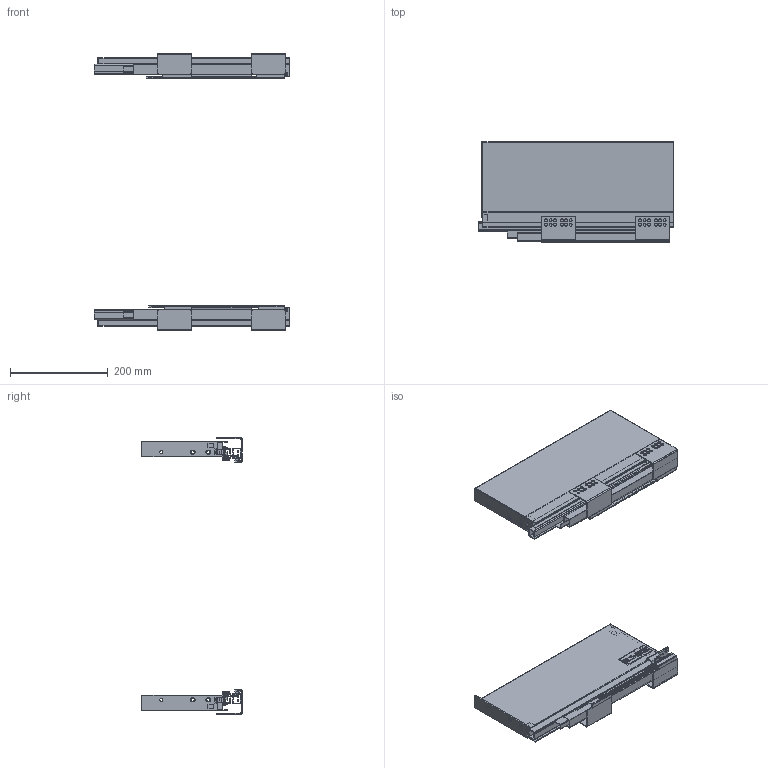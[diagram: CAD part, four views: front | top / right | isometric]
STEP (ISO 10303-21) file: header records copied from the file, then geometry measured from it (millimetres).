
FILE_DESCRIPTION(/* description */ (''),/* implementation_level */ '2;1');
FILE_NAME(/* name */ 'C:\Users\dmitruk\Documents\WORK\\X2\041D0410041F042004100412041B042F042E042904180415\X0\\SLIMBOX\SLIMBOX\SLIMBOX H175 L-400.stp',/* time_stamp */ '2022-04-19T17:18:50+03:00',/* author */ ('dmitruk'),/* organization */ ('AKS'),/* preprocessor_version */ 'ST-DEVELOPER v16.5',/* originating_system */ 'Autodesk Inventor 2017',/* authorisation */ '');
FILE_SCHEMA (('AUTOMOTIVE_DESIGN { 1 0 10303 214 3 1 1 }'));
Length unit declared in the file: millimetre
Products named in the file (13): SLIMBOX 90 мм правый; Боковина SLIMBOX _2; Направляющие \X2\0441043A
0440044B0442043E0433043E\X0\ монтажа \X2\043F
043E043B043D043E0433043E\X0\ \X2\0432044B04340432043804360435043D0438044F
\X0\ SLIMBOX-01; CR SLIMBOX-400; DR SLIMBOX; Крепление \X2\04440430
0441043004340430\X0\ SLIMBOX прав; CR SLIMBOX-500; DL SLIMBOX; Крепление \X2\04440430
0441043004340430\X0\ SLIMBOX лев; slim DW; Крепление к 
фасаду; Заглушка SLIMBOX; Крепление к 
фасаду 175
Assembly tree (16 placements, depth 3):
  SLIMBOX 90 мм правый
    Боковина SLIMBOX _2
    Направляющие \X2\0441043A
0440044B0442043E0433043E\X0\ монтажа \X2\043F
043E043B043D043E0433043E\X0\ \X2\0432044B04340432043804360435043D0438044F
\X0\ SLIMBOX-01
      CR SLIMBOX-400
      DR SLIMBOX
      slim DW  x2
      Крепление \X2\04440430
0441043004340430\X0\ SLIMBOX прав
      CR SLIMBOX-500
      DL SLIMBOX
      Крепление \X2\04440430
0441043004340430\X0\ SLIMBOX лев
    Крепление к 
фасаду  x2
    Заглушка SLIMBOX  x2
    Крепление к 
фасаду 175  x2
Bounding box: 400 x 204.5 x 564 mm (x, y, z)
Volume: 632326.7 mm3; surface area: 946663.1 mm2
Topology: 36 solids, 36 shells, 1639 faces, 4473 edges, 2957 vertices
Faces by surface type: plane 1153, cylinder 434, cone 28, torus 24
Full cylindrical faces by diameter (mm): 3 x4, 3.8 x4, 4 x16, 4.8 x4, 6 x48, 7.603 x4, 7.801 x2, 8.085 x2, 10.37 x4, 11 x12, 12.231 x2
Entity records: 39761 total; most frequent: CARTESIAN_POINT 6788, ORIENTED_EDGE 6566, DIRECTION 6487, EDGE_CURVE 3283, LINE 2643, VECTOR 2643, VERTEX_POINT 2223, AXIS2_PLACEMENT_3D 1922
